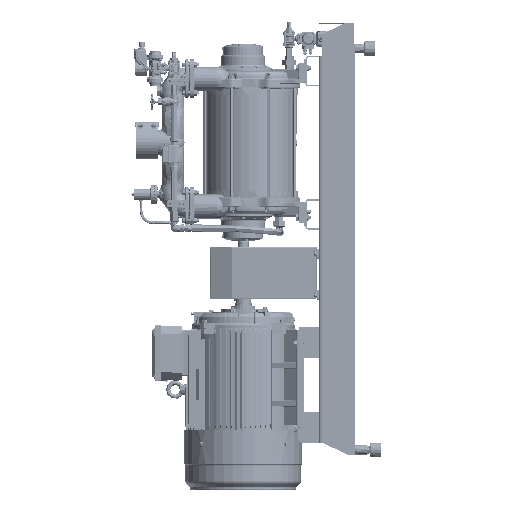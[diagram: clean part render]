
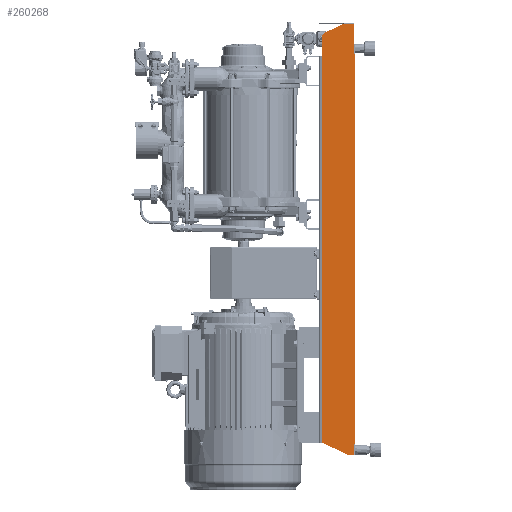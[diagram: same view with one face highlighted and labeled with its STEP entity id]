
A CAD part, left-side view. The second image highlights one B-rep face of the part: STEP entity #260268.
In plain terms, the highlighted planar face has unit normal (-1, 0, 0).
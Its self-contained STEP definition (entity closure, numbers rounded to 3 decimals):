
#9009=PLANE('',#285567);
#26073=CIRCLE('',#285568,25.);
#39861=FACE_OUTER_BOUND('',#55823,.T.);
#55823=EDGE_LOOP('',(#223107,#223108,#223109,#223110,#223111,#223112,#223113,
#223114,#223115,#223116,#223117,#223118));
#71982=LINE('',#629902,#88855);
#72690=LINE('',#632107,#89563);
#72691=LINE('',#632109,#89564);
#72692=LINE('',#632110,#89565);
#72693=LINE('',#632112,#89566);
#72694=LINE('',#632116,#89567);
#72695=LINE('',#632118,#89568);
#72696=LINE('',#632120,#89569);
#72697=LINE('',#632122,#89570);
#72698=LINE('',#632124,#89571);
#72699=LINE('',#632125,#89572);
#88855=VECTOR('',#343483,10.);
#89563=VECTOR('',#345417,10.);
#89564=VECTOR('',#345418,10.);
#89565=VECTOR('',#345419,10.);
#89566=VECTOR('',#345420,10.);
#89567=VECTOR('',#345423,10.);
#89568=VECTOR('',#345424,10.);
#89569=VECTOR('',#345425,10.);
#89570=VECTOR('',#345426,10.);
#89571=VECTOR('',#345427,10.);
#89572=VECTOR('',#345428,10.);
#118345=VERTEX_POINT('',#629899);
#118346=VERTEX_POINT('',#629901);
#118971=VERTEX_POINT('',#632105);
#118972=VERTEX_POINT('',#632106);
#118973=VERTEX_POINT('',#632108);
#118974=VERTEX_POINT('',#632111);
#118975=VERTEX_POINT('',#632113);
#118976=VERTEX_POINT('',#632115);
#118977=VERTEX_POINT('',#632117);
#118978=VERTEX_POINT('',#632119);
#118979=VERTEX_POINT('',#632121);
#118980=VERTEX_POINT('',#632123);
#153221=EDGE_CURVE('',#118345,#118346,#71982,.T.);
#154253=EDGE_CURVE('',#118971,#118972,#72690,.T.);
#154254=EDGE_CURVE('',#118971,#118973,#72691,.T.);
#154255=EDGE_CURVE('',#118346,#118973,#72692,.T.);
#154256=EDGE_CURVE('',#118974,#118345,#72693,.T.);
#154257=EDGE_CURVE('',#118975,#118974,#26073,.T.);
#154258=EDGE_CURVE('',#118976,#118975,#72694,.T.);
#154259=EDGE_CURVE('',#118976,#118977,#72695,.T.);
#154260=EDGE_CURVE('',#118978,#118977,#72696,.T.);
#154261=EDGE_CURVE('',#118979,#118978,#72697,.T.);
#154262=EDGE_CURVE('',#118979,#118980,#72698,.T.);
#154263=EDGE_CURVE('',#118980,#118972,#72699,.T.);
#223107=ORIENTED_EDGE('',*,*,#154253,.F.);
#223108=ORIENTED_EDGE('',*,*,#154254,.T.);
#223109=ORIENTED_EDGE('',*,*,#154255,.F.);
#223110=ORIENTED_EDGE('',*,*,#153221,.F.);
#223111=ORIENTED_EDGE('',*,*,#154256,.F.);
#223112=ORIENTED_EDGE('',*,*,#154257,.F.);
#223113=ORIENTED_EDGE('',*,*,#154258,.F.);
#223114=ORIENTED_EDGE('',*,*,#154259,.T.);
#223115=ORIENTED_EDGE('',*,*,#154260,.F.);
#223116=ORIENTED_EDGE('',*,*,#154261,.F.);
#223117=ORIENTED_EDGE('',*,*,#154262,.T.);
#223118=ORIENTED_EDGE('',*,*,#154263,.T.);
#260268=ADVANCED_FACE('',(#39861),#9009,.T.);
#285567=AXIS2_PLACEMENT_3D('',#632104,#345415,#345416);
#285568=AXIS2_PLACEMENT_3D('',#632114,#345421,#345422);
#343483=DIRECTION('',(0.,-1.,0.));
#345415=DIRECTION('center_axis',(-1.,0.,0.));
#345416=DIRECTION('ref_axis',(0.,0.,
-1.));
#345417=DIRECTION('',(0.,0.,-1.));
#345418=DIRECTION('',(0.,1.,0.));
#345419=DIRECTION('',(0.,0.,-1.));
#345420=DIRECTION('',(0.,-0.906,0.423));
#345421=DIRECTION('center_axis',(1.,0.,0.));
#345422=DIRECTION('ref_axis',(0.,0.843,0.537));
#345423=DIRECTION('',(0.,0.,1.));
#345424=DIRECTION('',(0.,0.,-1.));
#345425=DIRECTION('',(0.,0.906,0.423));
#345426=DIRECTION('',(0.,1.,0.));
#345427=DIRECTION('',(0.,0.,1.));
#345428=DIRECTION('',(0.,-1.,0.));
#629899=CARTESIAN_POINT('',(-254.,51.196,923.75));
#629901=CARTESIAN_POINT('',(-254.,6.,923.75));
#629902=CARTESIAN_POINT('',(-254.,51.196,923.75));
#632104=CARTESIAN_POINT('Origin',(-254.,403.586,0.));
#632105=CARTESIAN_POINT('',(-254.,0.,799.75));
#632106=CARTESIAN_POINT('',(-254.,0.,-799.75));
#632107=CARTESIAN_POINT('',(-254.,0.,-793.75));
#632108=CARTESIAN_POINT('',(-254.,6.,799.75));
#632109=CARTESIAN_POINT('',(-254.,201.793,799.75));
#632110=CARTESIAN_POINT('',(-254.,6.,923.75));
#632111=CARTESIAN_POINT('',(-254.,123.565,890.004));
#632112=CARTESIAN_POINT('',(-254.,138.,883.273));
#632113=CARTESIAN_POINT('',(-254.,138.,867.346));
#632114=CARTESIAN_POINT('Origin',(-254.,113.,867.346));
#632115=CARTESIAN_POINT('',(-254.,138.,793.75));
#632116=CARTESIAN_POINT('',(-254.,138.,793.75));
#632117=CARTESIAN_POINT('',(-254.,138.,-793.75));
#632118=CARTESIAN_POINT('',(-254.,138.,0.));
#632119=CARTESIAN_POINT('',(-254.,30.775,-843.75));
#632120=CARTESIAN_POINT('',(-254.,30.775,-843.75));
#632121=CARTESIAN_POINT('',(-254.,6.,-843.75));
#632122=CARTESIAN_POINT('',(-254.,0.,-843.75));
#632123=CARTESIAN_POINT('',(-254.,6.,-799.75));
#632124=CARTESIAN_POINT('',(-254.,6.,-410.875));
#632125=CARTESIAN_POINT('',(-254.,201.793,-799.75));
